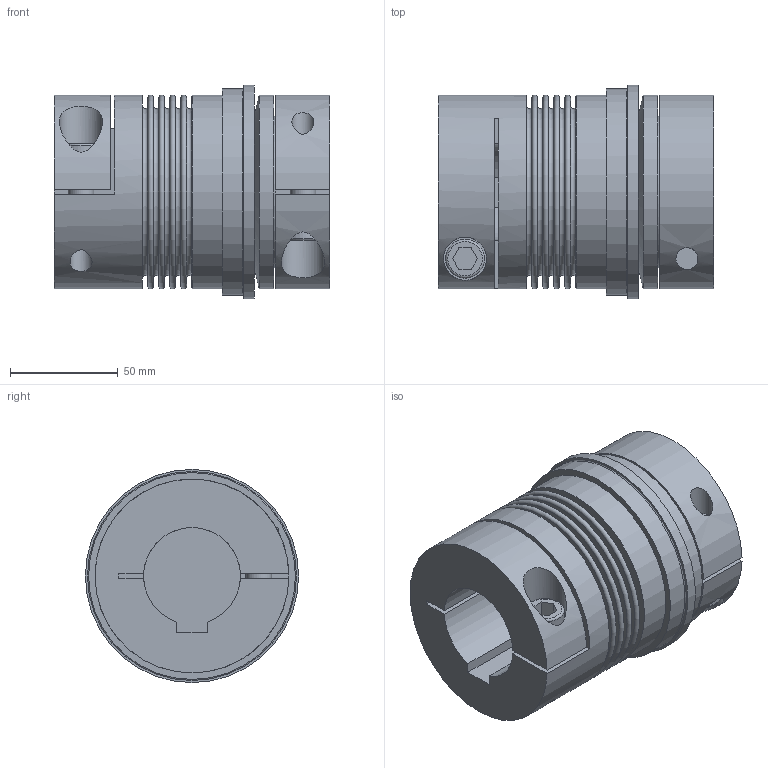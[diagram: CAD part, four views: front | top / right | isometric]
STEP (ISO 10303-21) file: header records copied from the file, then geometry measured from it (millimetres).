
FILE_DESCRIPTION(/* description */ ('STEP AP214'),/* implementation_level */ '2;1');
FILE_NAME(/* name */ 'C:\Diequa Files\DieQua Coupling\TB2\STP\TB2.200.128.#.#.stp',/* time_stamp */ '2019-04-26T10:40:49-05:00',/* author */ ('DiequaCAD'),/* organization */ (''),/* preprocessor_version */ 'ST-DEVELOPER v18',/* originating_system */ 'Autodesk Inventor 2020',/* authorisation */ ' ');
FILE_SCHEMA (('AUTOMOTIVE_DESIGN { 1 0 10303 214 3 1 1 }'));
Length unit declared in the file: millimetre
Products named in the file (1): TB2.200.128.#.#
Bounding box: 128 x 99 x 99 mm (x, y, z)
Volume: 653537.8 mm3; surface area: 99057.9 mm2
Topology: 1 solids, 1 shells, 90 faces, 212 edges, 148 vertices
Faces by surface type: plane 57, cylinder 20, torus 12, cone 1
Full cylindrical faces by diameter (mm): 10.2 x2, 12 x2, 13.5 x2, 18 x2, 20 x2, 71 x1, 90 x3, 96 x1, 99 x1
Entity records: 2857 total; most frequent: CARTESIAN_POINT 603, DIRECTION 491, ORIENTED_EDGE 424, EDGE_CURVE 212, AXIS2_PLACEMENT_3D 194, VERTEX_POINT 148, EDGE_LOOP 118, LINE 103
